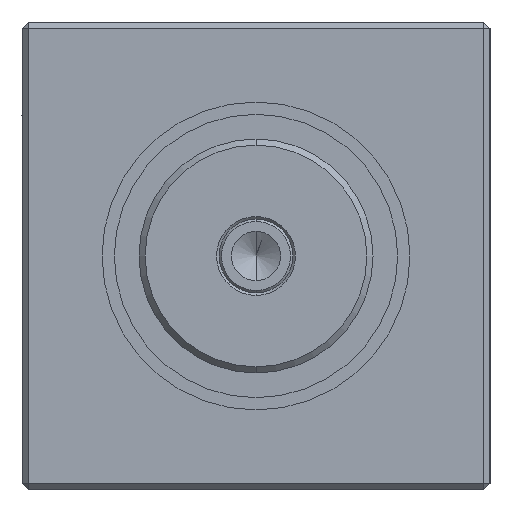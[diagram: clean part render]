
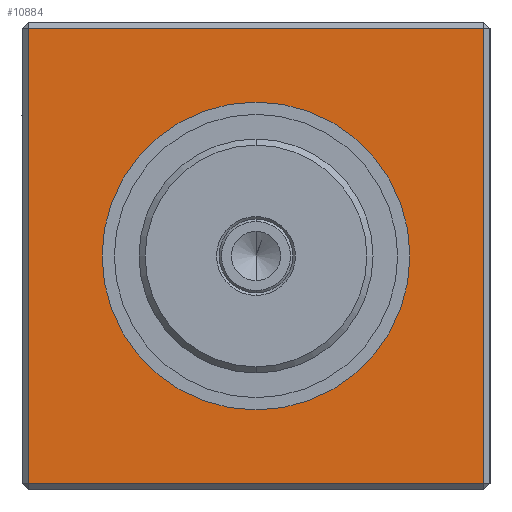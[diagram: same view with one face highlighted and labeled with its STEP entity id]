
A CAD part, left-side view. The second image highlights one B-rep face of the part: STEP entity #10884.
In plain terms, the highlighted planar face has unit normal (-1, 0, 0).
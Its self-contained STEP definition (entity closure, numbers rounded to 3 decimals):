
#10673 = EDGE_CURVE ( 'NONE', #12992, #12993, #27713, .T. ) ;
#10745 = EDGE_CURVE ( 'NONE', #12451, #12452, #32823, .T. ) ;
#10746 = EDGE_CURVE ( 'NONE', #12450, #12451, #32826, .T. ) ;
#10747 = EDGE_CURVE ( 'NONE', #12452, #12453, #32829, .T. ) ;
#10748 = EDGE_CURVE ( 'NONE', #12453, #12450, #32832, .T. ) ;
#10749 = EDGE_CURVE ( 'NONE', #12993, #12992, #27747, .T. ) ;
#10884 = ADVANCED_FACE ( 'NONE', ( #30735, #30740 ), #33710, .F. ) ;
#12218 = ORIENTED_EDGE ( 'NONE', *, *, #10746, .T. ) ;
#12219 = ORIENTED_EDGE ( 'NONE', *, *, #10747, .T. ) ;
#12220 = ORIENTED_EDGE ( 'NONE', *, *, #10745, .T. ) ;
#12221 = ORIENTED_EDGE ( 'NONE', *, *, #10748, .T. ) ;
#12223 = ORIENTED_EDGE ( 'NONE', *, *, #10749, .F. ) ;
#12225 = ORIENTED_EDGE ( 'NONE', *, *, #10673, .F. ) ;
#12450 = VERTEX_POINT ( 'NONE', #34544 ) ;
#12451 = VERTEX_POINT ( 'NONE', #34545 ) ;
#12452 = VERTEX_POINT ( 'NONE', #34546 ) ;
#12453 = VERTEX_POINT ( 'NONE', #34547 ) ;
#12992 = VERTEX_POINT ( 'NONE', #35014 ) ;
#12993 = VERTEX_POINT ( 'NONE', #35015 ) ;
#13400 = EDGE_LOOP ( 'NONE', ( #12218, #12220, #12219, #12221 ) ) ;
#13401 = EDGE_LOOP ( 'NONE', ( #12223, #12225 ) ) ;
#27713 = CIRCLE ( 'NONE', #30414, 12.5 ) ;
#27747 = CIRCLE ( 'NONE', #30490, 12.5 ) ;
#30414 = AXIS2_PLACEMENT_3D ( 'NONE', #32558, #32559, #32560 ) ;
#30490 = AXIS2_PLACEMENT_3D ( 'NONE', #32822, #32835, #32836 ) ;
#30491 = VECTOR ( 'NONE', #32825, 1000. ) ;
#30492 = VECTOR ( 'NONE', #32828, 1000. ) ;
#30493 = VECTOR ( 'NONE', #32831, 1000. ) ;
#30494 = VECTOR ( 'NONE', #32834, 1000. ) ;
#30735 = FACE_OUTER_BOUND ( 'NONE', #13400, .T. ) ;
#30740 = FACE_BOUND ( 'NONE', #13401, .T. ) ;
#30742 = AXIS2_PLACEMENT_3D ( 'NONE', #33711, #33712, #33713 ) ;
#32558 = CARTESIAN_POINT ( 'NONE',  ( 0., 0., 0. ) ) ;
#32559 = DIRECTION ( 'NONE',  ( -1., 0., 0. ) ) ;
#32560 = DIRECTION ( 'NONE',  ( 0., -1., 0. ) ) ;
#32822 = CARTESIAN_POINT ( 'NONE',  ( 0., 0., 0. ) ) ;
#32823 = LINE ( 'NONE', #32824, #30491 ) ;
#32824 = CARTESIAN_POINT ( 'NONE',  ( 0., -18.5, 19. ) ) ;
#32825 = DIRECTION ( 'NONE',  ( 0., 0., 1. ) ) ;
#32826 = LINE ( 'NONE', #32827, #30492 ) ;
#32827 = CARTESIAN_POINT ( 'NONE',  ( 0., -19., -18.5 ) ) ;
#32828 = DIRECTION ( 'NONE',  ( 0., -1., 0. ) ) ;
#32829 = LINE ( 'NONE', #32830, #30493 ) ;
#32830 = CARTESIAN_POINT ( 'NONE',  ( 0., -19., 18.5 ) ) ;
#32831 = DIRECTION ( 'NONE',  ( 0., 1., 0. ) ) ;
#32832 = LINE ( 'NONE', #32833, #30494 ) ;
#32833 = CARTESIAN_POINT ( 'NONE',  ( 0., 18.5, 19. ) ) ;
#32834 = DIRECTION ( 'NONE',  ( 0., 0., -1. ) ) ;
#32835 = DIRECTION ( 'NONE',  ( -1., 0., 0. ) ) ;
#32836 = DIRECTION ( 'NONE',  ( 0., -1., 0. ) ) ;
#33710 = PLANE ( 'NONE',  #30742 ) ;
#33711 = CARTESIAN_POINT ( 'NONE',  ( 0., -19., 19. ) ) ;
#33712 = DIRECTION ( 'NONE',  ( 1., 0., 0. ) ) ;
#33713 = DIRECTION ( 'NONE',  ( 0., 0., -1. ) ) ;
#34544 = CARTESIAN_POINT ( 'NONE',  ( 0., 18.5, -18.5 ) ) ;
#34545 = CARTESIAN_POINT ( 'NONE',  ( 0., -18.5, -18.5 ) ) ;
#34546 = CARTESIAN_POINT ( 'NONE',  ( 0., -18.5, 18.5 ) ) ;
#34547 = CARTESIAN_POINT ( 'NONE',  ( 0., 18.5, 18.5 ) ) ;
#35014 = CARTESIAN_POINT ( 'NONE',  ( 0., 12.5, 0. ) ) ;
#35015 = CARTESIAN_POINT ( 'NONE',  ( 0., -12.5, 0. ) ) ;
